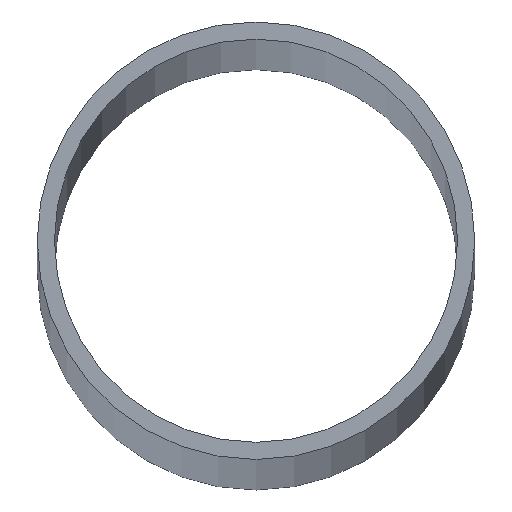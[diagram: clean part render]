
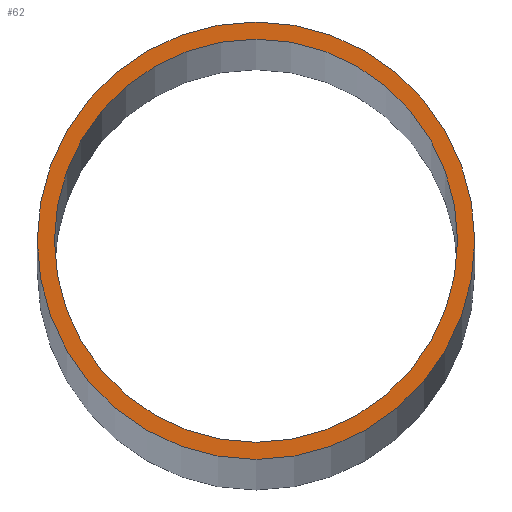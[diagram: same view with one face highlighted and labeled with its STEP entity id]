
A CAD part, top view. The second image highlights one B-rep face of the part: STEP entity #62.
In plain terms, the highlighted planar face has unit normal (0, 0, 1).
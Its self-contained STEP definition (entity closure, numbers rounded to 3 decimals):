
#15=PLANE('',#90);
#19=FACE_BOUND('',#31,.T.);
#23=FACE_OUTER_BOUND('',#30,.T.);
#30=EDGE_LOOP('',(#50));
#31=EDGE_LOOP('',(#51));
#32=CIRCLE('',#84,57.6);
#34=CIRCLE('',#87,62.5);
#36=VERTEX_POINT('',#111);
#38=VERTEX_POINT('',#116);
#40=EDGE_CURVE('',#36,#36,#32,.T.);
#42=EDGE_CURVE('',#38,#38,#34,.T.);
#50=ORIENTED_EDGE('',*,*,#42,.T.);
#51=ORIENTED_EDGE('',*,*,#40,.T.);
#62=ADVANCED_FACE('',(#23,#19),#15,.T.);
#84=AXIS2_PLACEMENT_3D('',#112,#95,#96);
#87=AXIS2_PLACEMENT_3D('',#117,#101,#102);
#90=AXIS2_PLACEMENT_3D('',#121,#107,#108);
#95=DIRECTION('center_axis',(0.,0.,-1.));
#96=DIRECTION('ref_axis',(-1.,0.,0.));
#101=DIRECTION('center_axis',(0.,0.,1.));
#102=DIRECTION('ref_axis',(-1.,0.,0.));
#107=DIRECTION('center_axis',(0.,0.,1.));
#108=DIRECTION('ref_axis',(1.,0.,0.));
#111=CARTESIAN_POINT('',(57.6,0.,5000.));
#112=CARTESIAN_POINT('Origin',(0.,0.,5000.));
#116=CARTESIAN_POINT('',(62.5,0.,5000.));
#117=CARTESIAN_POINT('Origin',(0.,0.,5000.));
#121=CARTESIAN_POINT('Origin',(0.,0.,5000.));
